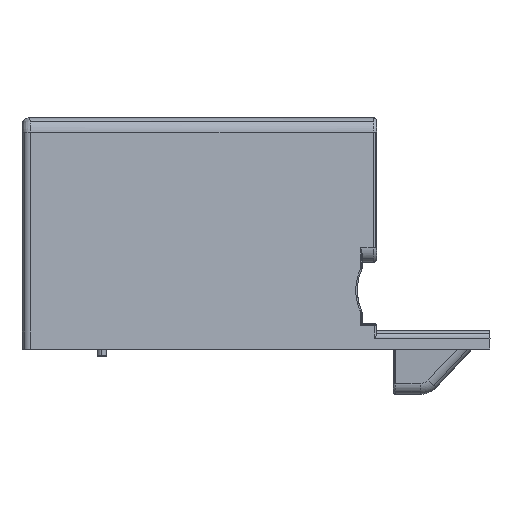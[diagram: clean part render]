
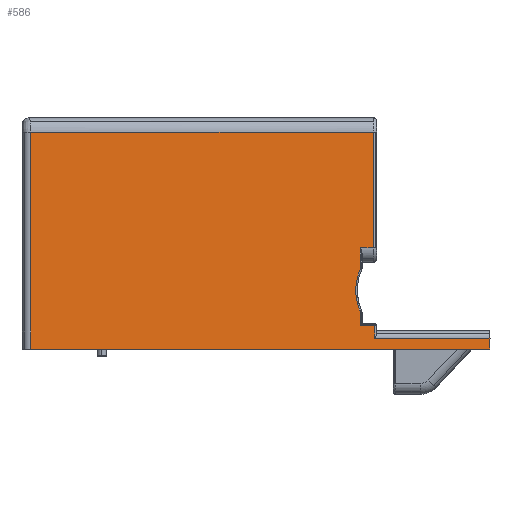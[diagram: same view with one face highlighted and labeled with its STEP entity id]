
A CAD part, left-side view. The second image highlights one B-rep face of the part: STEP entity #586.
In plain terms, the highlighted planar face has unit normal (-0.991, -0.133, 0).
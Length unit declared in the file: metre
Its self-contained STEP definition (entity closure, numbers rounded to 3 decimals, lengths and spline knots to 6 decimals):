
#586=ADVANCED_FACE('0:1184',(#1696),#1697,.T.);
#1696=FACE_OUTER_BOUND('',#12029,.T.);
#1697=PLANE('',#12030);
#12029=EDGE_LOOP('',(#16239,#16240,#16241,#16242,#16243,#16244,#16245,#16246,#16247,#16248,#16249,#16250,#16251,#16252));
#12030=AXIS2_PLACEMENT_3D('',#16253,#16254,#16255);
#16239=ORIENTED_EDGE('',*,*,#18090,.F.);
#16240=ORIENTED_EDGE('',*,*,#18091,.F.);
#16241=ORIENTED_EDGE('',*,*,#18092,.T.);
#16242=ORIENTED_EDGE('',*,*,#17904,.T.);
#16243=ORIENTED_EDGE('',*,*,#17898,.F.);
#16244=ORIENTED_EDGE('',*,*,#16935,.F.);
#16245=ORIENTED_EDGE('',*,*,#17897,.F.);
#16246=ORIENTED_EDGE('',*,*,#17896,.F.);
#16247=ORIENTED_EDGE('',*,*,#17894,.F.);
#16248=ORIENTED_EDGE('',*,*,#17892,.F.);
#16249=ORIENTED_EDGE('',*,*,#16943,.F.);
#16250=ORIENTED_EDGE('',*,*,#17888,.T.);
#16251=ORIENTED_EDGE('',*,*,#17887,.F.);
#16252=ORIENTED_EDGE('',*,*,#17886,.F.);
#16253=CARTESIAN_POINT('',(0.014487,-0.046125,-0.01454));
#16254=DIRECTION('',(-0.991,-0.133,0.));
#16255=DIRECTION('',(0.133,-0.991,0.));
#16935=EDGE_CURVE('0:3488',#18701,#18703,#18704,.T.);
#16943=EDGE_CURVE('0:3461',#18716,#18718,#18719,.T.);
#17886=EDGE_CURVE('0:3446',#20235,#19957,#20237,.T.);
#17887=EDGE_CURVE('0:3449',#19957,#19963,#20238,.T.);
#17888=EDGE_CURVE('0:3452',#18716,#19963,#20239,.T.);
#17892=EDGE_CURVE('0:3467',#18718,#20242,#20244,.T.);
#17894=EDGE_CURVE('0:3473',#20242,#20245,#20247,.T.);
#17896=EDGE_CURVE('0:3479',#20245,#20248,#20250,.T.);
#17897=EDGE_CURVE('0:3485',#20248,#18701,#20251,.T.);
#17898=EDGE_CURVE('0:3491',#18703,#20252,#20253,.T.);
#17904=EDGE_CURVE('0:3509',#20263,#20252,#20264,.T.);
#18090=EDGE_CURVE('0:4238',#20513,#20235,#20515,.T.);
#18091=EDGE_CURVE('0:4244',#20516,#20513,#20517,.T.);
#18092=EDGE_CURVE('0:4247',#20516,#20263,#20518,.T.);
#18701=VERTEX_POINT('',#21443);
#18703=VERTEX_POINT('',#21445);
#18704=LINE('',#21446,#21447);
#18716=VERTEX_POINT('',#21462);
#18718=VERTEX_POINT('',#21473);
#18719=LINE('',#21474,#21475);
#19957=VERTEX_POINT('',#23933);
#19963=VERTEX_POINT('',#23940);
#20235=VERTEX_POINT('',#24541);
#20237=LINE('',#24543,#24544);
#20238=LINE('',#24545,#24546);
#20239=LINE('',#24547,#24548);
#20242=VERTEX_POINT('',#24560);
#20244=ELLIPSE('',#24562,0.000757,0.00075);
#20245=VERTEX_POINT('',#24563);
#20247=ELLIPSE('',#24565,0.007316,0.00725);
#20248=VERTEX_POINT('',#24566);
#20250=ELLIPSE('',#24568,0.000757,0.00075);
#20251=LINE('',#24569,#24570);
#20252=VERTEX_POINT('',#24571);
#20253=LINE('',#24572,#24573);
#20263=VERTEX_POINT('',#24596);
#20264=LINE('',#24597,#24598);
#20513=VERTEX_POINT('',#25019);
#20515=LINE('',#25021,#25022);
#20516=VERTEX_POINT('',#25023);
#20517=LINE('',#25024,#25025);
#20518=LINE('',#25026,#25027);
#21443=CARTESIAN_POINT('',(0.010425,-0.015911,-0.029415));
#21445=CARTESIAN_POINT('',(0.010694,-0.017911,-0.029415));
#21446=CARTESIAN_POINT('',(0.012517,-0.031465,-0.029415));
#21447=VECTOR('',#25673,1.0);
#21462=CARTESIAN_POINT('',(0.010425,-0.015911,-0.018665));
#21473=CARTESIAN_POINT('',(0.010425,-0.015911,-0.021352));
#21474=CARTESIAN_POINT('',(0.010425,-0.015911,-0.023603));
#21475=VECTOR('',#25686,1.0);
#23933=CARTESIAN_POINT('',(0.010665,-0.017694,-0.002665));
#23940=CARTESIAN_POINT('',(0.010665,-0.017694,-0.018665));
#24541=CARTESIAN_POINT('',(0.004289,0.029737,-0.002665));
#24543=CARTESIAN_POINT('',(0.009864,-0.011732,-0.002665));
#24544=VECTOR('',#27305,1.0);
#24545=CARTESIAN_POINT('',(0.010665,-0.017694,-0.023603));
#24546=VECTOR('',#27306,1.0);
#24547=CARTESIAN_POINT('',(0.013613,-0.039618,-0.018665));
#24548=VECTOR('',#27307,1.0);
#24560=CARTESIAN_POINT('',(0.010417,-0.015848,-0.021651));
#24562=AXIS2_PLACEMENT_3D('',#27314,#27315,#27316);
#24563=CARTESIAN_POINT('',(0.010417,-0.015848,-0.02743));
#24565=AXIS2_PLACEMENT_3D('',#27320,#27321,#27322);
#24566=CARTESIAN_POINT('',(0.010425,-0.015911,-0.027728));
#24568=AXIS2_PLACEMENT_3D('',#27326,#27327,#27328);
#24569=CARTESIAN_POINT('',(0.010425,-0.015911,-0.023603));
#24570=VECTOR('',#27329,1.0);
#24571=CARTESIAN_POINT('',(0.010694,-0.017911,-0.031165));
#24572=CARTESIAN_POINT('',(0.010694,-0.017911,-0.022353));
#24573=VECTOR('',#27330,1.0);
#24596=CARTESIAN_POINT('',(0.012834,-0.033826,-0.031165));
#24597=CARTESIAN_POINT('',(0.013215,-0.036658,-0.031165));
#24598=VECTOR('',#27335,1.0);
#25019=CARTESIAN_POINT('',(0.004289,0.029737,-0.032665));
#25021=CARTESIAN_POINT('',(0.004289,0.029737,-0.011603));
#25022=VECTOR('',#27656,1.);
#25023=CARTESIAN_POINT('',(0.012834,-0.033826,-0.032665));
#25024=CARTESIAN_POINT('',(0.009712,-0.010602,-0.032665));
#25025=VECTOR('',#27657,1.);
#25026=CARTESIAN_POINT('',(0.012834,-0.033826,-0.023603));
#25027=VECTOR('',#27658,1.0);
#25673=DIRECTION('',(0.133,-0.991,0.));
#25686=DIRECTION('',(0.,0.,-1.0));
#27305=DIRECTION('',(0.133,-0.991,0.));
#27306=DIRECTION('',(0.,0.,-1.0));
#27307=DIRECTION('',(0.133,-0.991,0.));
#27314=CARTESIAN_POINT('',(0.010325,-0.015161,-0.021352));
#27315=DIRECTION('',(0.991,0.133,0.));
#27316=DIRECTION('',(0.133,-0.991,0.));
#27320=CARTESIAN_POINT('',(0.011311,-0.022498,-0.02454));
#27321=DIRECTION('',(-0.991,-0.133,0.));
#27322=DIRECTION('',(-0.133,0.991,0.));
#27326=CARTESIAN_POINT('',(0.010325,-0.015161,-0.027728));
#27327=DIRECTION('',(0.991,0.133,0.));
#27328=DIRECTION('',(0.133,-0.991,0.));
#27329=DIRECTION('',(0.,0.,-1.0));
#27330=DIRECTION('',(0.,0.,-1.0));
#27335=DIRECTION('',(-0.133,0.991,0.));
#27656=DIRECTION('',(0.,0.,1.));
#27657=DIRECTION('',(-0.133,0.991,0.));
#27658=DIRECTION('',(0.,0.,1.0));
